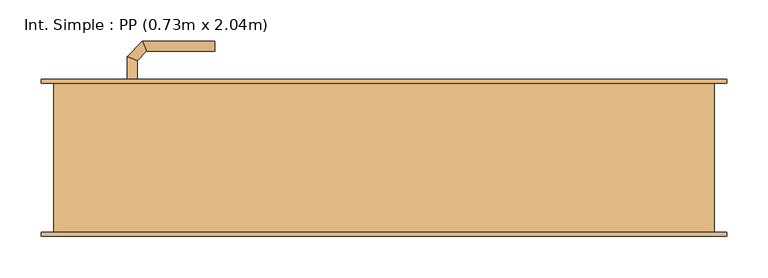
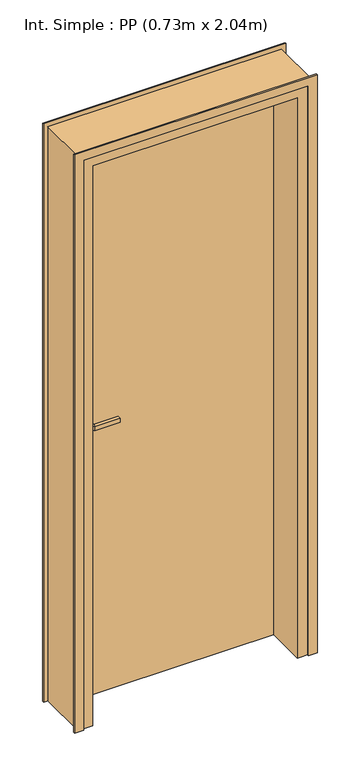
"""IFC4 building model written with IfcOpenShell, lengths in millimetres: door geometry, Int. Simple : PP (0.73m x 2.04m)."""

from ifc_helpers import new_model, si_unit, point, frame, frame_2d, origin, origin_with_axes, place, context, project, spatial, polyline, circle_curve, ellipse_curve, trimmed, segment, composite_curve, outline, extrude, faceted_brep, source, transform, mapped, element, save
from ifc_brep_helpers import plane_surface, cylinder_surface, advanced_brep


def int_simple_pp_0_73m_x_2_04m_646e19c0(model_context):
    return source(origin(), model_context, "Body", "SolidModel", [
        extrude(outline(composite_curve([segment(trimmed(circle_curve(frame_2d((904.6410162, -340.0)), 40.0), [point((870.0, -360.0))], [point((870.0, -320.0))], False, "CARTESIAN"), True, "CONTINUOUS"), segment(polyline([(870.0, -320.0), (1080.0, -320.0)]), True, "CONTINUOUS"), segment(trimmed(circle_curve(frame_2d((1045.3589838, -340.0)), 40.0), [point((1080.0, -320.0))], [point((1080.0, -360.0))], False, "CARTESIAN"), True, "CONTINUOUS"), segment(polyline([(1080.0, -360.0), (870.0, -360.0)]), True, "CONTINUOUS")], self_intersect=False)), frame((0.0, 90.0, 0.0), z_axis=(0.0, 1.0, 0.0), x_axis=(0.0, 0.0, 1.0)), (0.0, 0.0, 1.0), 5.0),
        extrude(outline(composite_curve([segment(trimmed(circle_curve(frame_2d((1045.3589838, -340.0)), 40.0), [point((1080.0, -320.0))], [point((1080.0, -360.0))], False, "CARTESIAN"), True, "CONTINUOUS"), segment(polyline([(1080.0, -360.0), (870.0, -360.0)]), True, "CONTINUOUS"), segment(trimmed(circle_curve(frame_2d((904.6410162, -340.0)), 40.0), [point((870.0, -360.0))], [point((870.0, -320.0))], False, "CARTESIAN"), True, "CONTINUOUS"), segment(polyline([(870.0, -320.0), (1080.0, -320.0)]), True, "CONTINUOUS")], self_intersect=False)), frame((0.0, 45.0, 0.0), z_axis=(0.0, 1.0, 0.0), x_axis=(0.0, 0.0, 1.0)), (0.0, 0.0, 1.0), 5.0),
        advanced_brep(
        [(-346.0, 95.0, 1007.0), (-346.0, 95.0, 993.0), (-334.0, 95.0, 993.0), (-334.0, 95.0, 1007.0), (-334.0, 117.680388, 1007.0), (-346.0, 122.6509507, 1007.0), (-334.0, 117.680388, 993.0), (-346.0, 122.6509507, 993.0), (-322.6522273, 129.0281607, 1007.0), (-327.62279, 141.0281607, 1007.0), (-322.6522273, 129.0281607, 993.0), (-327.62279, 141.0281607, 993.0), (-239.9813594, 141.0281607, 1007.0), (-239.9813594, 129.0281607, 1007.0), (-239.9813594, 129.0281607, 993.0), (-239.9813594, 141.0281607, 993.0)],
        [
            (0, 1),
            (1, 2, circle_curve(frame((-340.0, 95.0, 1013.0457722), z_axis=(0.0, -1.0, 0.0), x_axis=(1.0, 0.0, 0.0)), 20.9244589)),
            (2, 3),
            (3, 0, circle_curve(frame((-340.0, 95.0, 986.9542278), z_axis=(0.0, -1.0, 0.0), x_axis=(1.0, 0.0, 0.0)), 20.9244589)),
            (3, 4),
            (4, 5, ellipse_curve(frame((-340.0, 120.1656693, 986.9542278), z_axis=(-0.3826834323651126, -0.9238795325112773, 0.0), x_axis=(0.9238795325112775, -0.38268343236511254, 0.0)), 22.6484711, 20.9244589)),
            (5, 0),
            (2, 6),
            (6, 4),
            (1, 7),
            (7, 6, ellipse_curve(frame((-340.0, 120.1656693, 1013.0457722), z_axis=(-0.3826834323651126, -0.9238795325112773, 0.0), x_axis=(0.9238795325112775, -0.38268343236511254, 0.0)), 22.6484711, 20.9244589)),
            (5, 7),
            (4, 8),
            (8, 9, ellipse_curve(frame((-325.1375086, 135.0281607, 986.9542278), z_axis=(-0.9238795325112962, -0.38268343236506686, 0.0), x_axis=(0.3826834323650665, -0.9238795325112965, 0.0)), 22.6484711, 20.9244589)),
            (9, 5),
            (6, 10),
            (10, 8),
            (7, 11),
            (11, 10, ellipse_curve(frame((-325.1375086, 135.0281607, 1013.0457722), z_axis=(-0.9238795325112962, -0.38268343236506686, 0.0), x_axis=(0.3826834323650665, -0.9238795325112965, 0.0)), 22.6484711, 20.9244589)),
            (9, 11),
            (12, 13, circle_curve(frame((-239.9813594, 135.0281607, 986.9542278), z_axis=(1.0, 0.0, 0.0), x_axis=(0.0, -1.0, 0.0)), 20.9244589)),
            (13, 14),
            (14, 15, circle_curve(frame((-239.9813594, 135.0281607, 1013.0457722), z_axis=(1.0, 0.0, 0.0), x_axis=(0.0, -1.0, 0.0)), 20.9244589)),
            (15, 12),
            (8, 13),
            (12, 9),
            (10, 14),
            (11, 15),
        ],
        [
            plane_surface(frame((-349.2195445, 95.0, 1000.0), z_axis=(0.0, -1.0, 0.0), x_axis=(0.0, 0.0, -1.0))),
            cylinder_surface(frame((-340.0, 95.0, 986.9542278), z_axis=(0.0, -1.0, 0.0), x_axis=(1.0, 0.0, 0.0)), 20.9244589),
            plane_surface(frame((-334.0, 95.0, 1007.0), z_axis=(1.0, 0.0, 0.0), x_axis=(0.0, 1.0, 0.0))),
            cylinder_surface(frame((-340.0, 95.0, 1013.0457722), z_axis=(0.0, -1.0, 0.0), x_axis=(1.0, 0.0, 0.0)), 20.9244589),
            plane_surface(frame((-346.0, 95.0, 993.0), z_axis=(-1.0, 0.0, 0.0), x_axis=(0.0, 1.0, 0.0))),
            cylinder_surface(frame((-340.0, 120.1656693, 986.9542278), z_axis=(-0.7071067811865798, -0.7071067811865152, 0.0), x_axis=(0.7071067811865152, -0.7071067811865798, 0.0)), 20.9244589),
            plane_surface(frame((-334.0, 117.680388, 1007.0), z_axis=(0.7071067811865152, -0.7071067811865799, 0.0), x_axis=(0.7071067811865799, 0.7071067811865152, 0.0))),
            cylinder_surface(frame((-340.0, 120.1656693, 1013.0457722), z_axis=(-0.7071067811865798, -0.7071067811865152, 0.0), x_axis=(0.7071067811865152, -0.7071067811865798, 0.0)), 20.9244589),
            plane_surface(frame((-346.0, 122.6509507, 993.0), z_axis=(-0.7071067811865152, 0.7071067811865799, 0.0), x_axis=(0.7071067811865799, 0.7071067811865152, 0.0))),
            plane_surface(frame((-239.9813594, 135.0281607, 990.7804555), z_axis=(1.0, 0.0, 0.0), x_axis=(0.0, -1.0, 0.0))),
            cylinder_surface(frame((-325.1375086, 135.0281607, 986.9542278), z_axis=(-1.0, 0.0, 0.0), x_axis=(0.0, -1.0, 0.0)), 20.9244589),
            plane_surface(frame((-322.6522273, 129.0281607, 1007.0), z_axis=(0.0, -1.0, 0.0), x_axis=(1.0, 0.0, 0.0))),
            cylinder_surface(frame((-325.1375086, 135.0281607, 1013.0457722), z_axis=(-1.0, 0.0, 0.0), x_axis=(0.0, -1.0, 0.0)), 20.9244589),
            plane_surface(frame((-327.62279, 141.0281607, 993.0), z_axis=(0.0, 1.0, 0.0), x_axis=(1.0, 0.0, 0.0))),
        ],
        [
            (0, [[1, 2, 3, 4]]),
            (1, [[5, 6, 7, -4]]),
            (2, [[8, 9, -5, -3]]),
            (3, [[10, 11, -8, -2]]),
            (4, [[-7, 12, -10, -1]]),
            (5, [[13, 14, 15, -6]]),
            (6, [[16, 17, -13, -9]]),
            (7, [[18, 19, -16, -11]]),
            (8, [[-15, 20, -18, -12]]),
            (9, [[21, 22, 23, 24]]),
            (10, [[25, -21, 26, -14]]),
            (11, [[27, -22, -25, -17]]),
            (12, [[28, -23, -27, -19]]),
            (13, [[-26, -24, -28, -20]]),
        ],
    ),
        advanced_brep(
        [(-334.0, 45.0, 993.0), (-346.0, 45.0, 993.0), (-346.0, 45.0, 1007.0), (-334.0, 45.0, 1007.0), (-334.0, 22.5147955, 1007.0), (-334.0, 22.5147955, 993.0), (-346.0, 17.5442327, 1007.0), (-346.0, 17.5442327, 993.0), (-322.5147186, 11.0295141, 1007.0), (-322.5147186, 11.0295141, 993.0), (-327.4852814, -0.9704859, 1007.0), (-327.4852814, -0.9704859, 993.0), (-239.9542163, 11.0295141, 993.0), (-239.9542163, 11.0295141, 1007.0), (-239.9542163, -0.9704859, 1007.0), (-239.9542163, -0.9704859, 993.0)],
        [
            (0, 1, circle_curve(frame((-340.0, 45.0, 1013.0457722), z_axis=(0.0, 1.0, 0.0), x_axis=(-1.0, 0.0, 0.0)), 20.9244589)),
            (1, 2),
            (2, 3, circle_curve(frame((-340.0, 45.0, 986.9542278), z_axis=(0.0, 1.0, 0.0), x_axis=(-1.0, 0.0, 0.0)), 20.9244589)),
            (3, 0),
            (3, 4),
            (4, 5),
            (5, 0),
            (2, 6),
            (6, 4, ellipse_curve(frame((-340.0, 20.0295141, 986.9542278), z_axis=(-0.3826834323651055, 0.9238795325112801, 0.0), x_axis=(0.9238795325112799, 0.3826834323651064, 0.0)), 22.6484711, 20.9244589)),
            (1, 7),
            (7, 6),
            (5, 7, ellipse_curve(frame((-340.0, 20.0295141, 1013.0457722), z_axis=(-0.3826834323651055, 0.9238795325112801, 0.0), x_axis=(0.9238795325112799, 0.3826834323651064, 0.0)), 22.6484711, 20.9244589)),
            (4, 8),
            (8, 9),
            (9, 5),
            (6, 10),
            (10, 8, ellipse_curve(frame((-325.0, 5.0295141, 986.9542278), z_axis=(-0.9238795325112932, 0.382683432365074, 0.0), x_axis=(0.3826834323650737, 0.9238795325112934, 0.0)), 22.6484711, 20.9244589)),
            (7, 11),
            (11, 10),
            (9, 11, ellipse_curve(frame((-325.0, 5.0295141, 1013.0457722), z_axis=(-0.9238795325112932, 0.382683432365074, 0.0), x_axis=(0.3826834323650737, 0.9238795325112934, 0.0)), 22.6484711, 20.9244589)),
            (12, 13),
            (13, 14, circle_curve(frame((-239.9542163, 5.0295141, 986.9542278), z_axis=(1.0, 0.0, 0.0), x_axis=(0.0, -1.0, 0.0)), 20.9244589)),
            (14, 15),
            (15, 12, circle_curve(frame((-239.9542163, 5.0295141, 1013.0457722), z_axis=(1.0, 0.0, 0.0), x_axis=(0.0, -1.0, 0.0)), 20.9244589)),
            (8, 13),
            (12, 9),
            (10, 14),
            (11, 15),
        ],
        [
            plane_surface(frame((-349.2195445, 45.0, 1000.0), z_axis=(0.0, 1.0, 0.0), x_axis=(0.0, 0.0, 1.0))),
            plane_surface(frame((-334.0, 45.0, 993.0), z_axis=(1.0, 0.0, 0.0), x_axis=(0.0, -1.0, 0.0))),
            cylinder_surface(frame((-340.0, 45.0, 986.9542278), z_axis=(0.0, 1.0, 0.0), x_axis=(-1.0, 0.0, 0.0)), 20.9244589),
            plane_surface(frame((-346.0, 45.0, 1007.0), z_axis=(-1.0, 0.0, 0.0), x_axis=(0.0, -1.0, 0.0))),
            cylinder_surface(frame((-340.0, 45.0, 1013.0457722), z_axis=(0.0, 1.0, 0.0), x_axis=(-1.0, 0.0, 0.0)), 20.9244589),
            plane_surface(frame((-334.0, 22.5147955, 993.0), z_axis=(0.7071067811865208, 0.7071067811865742, 0.0), x_axis=(0.7071067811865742, -0.7071067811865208, 0.0))),
            cylinder_surface(frame((-340.0, 20.0295141, 986.9542278), z_axis=(-0.7071067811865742, 0.7071067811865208, 0.0), x_axis=(-0.7071067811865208, -0.7071067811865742, 0.0)), 20.9244589),
            plane_surface(frame((-346.0, 17.5442327, 1007.0), z_axis=(-0.7071067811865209, -0.7071067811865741, 0.0), x_axis=(0.7071067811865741, -0.7071067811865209, 0.0))),
            cylinder_surface(frame((-340.0, 20.0295141, 1013.0457722), z_axis=(-0.7071067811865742, 0.7071067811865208, 0.0), x_axis=(-0.7071067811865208, -0.7071067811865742, 0.0)), 20.9244589),
            plane_surface(frame((-239.9542163, 5.0295141, 990.7804555), z_axis=(1.0, 0.0, 0.0), x_axis=(0.0, -1.0, 0.0))),
            plane_surface(frame((-322.5147186, 11.0295141, 993.0), z_axis=(0.0, 1.0, 0.0), x_axis=(1.0, 0.0, 0.0))),
            cylinder_surface(frame((-325.0, 5.0295141, 986.9542278), z_axis=(-1.0, 0.0, 0.0), x_axis=(0.0, -1.0, 0.0)), 20.9244589),
            plane_surface(frame((-327.4852814, -0.9704859, 1007.0), z_axis=(0.0, -1.0, 0.0), x_axis=(1.0, 0.0, 0.0))),
            cylinder_surface(frame((-325.0, 5.0295141, 1013.0457722), z_axis=(-1.0, 0.0, 0.0), x_axis=(0.0, -1.0, 0.0)), 20.9244589),
        ],
        [
            (0, [[1, 2, 3, 4]]),
            (1, [[5, 6, 7, -4]]),
            (2, [[8, 9, -5, -3]]),
            (3, [[10, 11, -8, -2]]),
            (4, [[-7, 12, -10, -1]]),
            (5, [[13, 14, 15, -6]]),
            (6, [[16, 17, -13, -9]]),
            (7, [[18, 19, -16, -11]]),
            (8, [[-15, 20, -18, -12]]),
            (9, [[21, 22, 23, 24]]),
            (10, [[25, -21, 26, -14]]),
            (11, [[27, -22, -25, -17]]),
            (12, [[28, -23, -27, -19]]),
            (13, [[-26, -24, -28, -20]]),
        ],
    ),
        extrude(outline(polyline([(-400.0, 50.0), (-400.0, 90.0), (330.0, 90.0), (330.0, 50.0), (-400.0, 50.0)])), origin_with_axes(), (0.0, 0.0, 1.0), 2040.0),
        faceted_brep([(-435.0, 90.0, 0.0), (-400.0, 90.0, 0.0), (-400.0, 50.0, 0.0), (-385.0, 50.0, 0.0), (-385.0, -90.0, 0.0), (-435.0, -90.0, 0.0), (-435.0, -90.0, 2075.0), (-435.0, 90.0, 2075.0), (-385.0, -90.0, 2025.0), (315.0, -90.0, 2025.0), (315.0, -90.0, 0.0), (365.0, -90.0, 0.0), (365.0, -90.0, 2075.0), (-385.0, 50.0, 2025.0), (-400.0, 50.0, 2040.0), (330.0, 50.0, 2040.0), (330.0, 50.0, 0.0), (315.0, 50.0, 0.0), (315.0, 50.0, 2025.0), (-400.0, 90.0, 2040.0), (365.0, 90.0, 2075.0), (365.0, 90.0, 0.0), (330.0, 90.0, 0.0), (330.0, 90.0, 2040.0)], [[[0, 1, 2, 3, 4, 5]], [[5, 6, 7, 0]], [[4, 8, 9, 10, 11, 12, 6, 5]], [[3, 13, 8, 4]], [[2, 14, 15, 16, 17, 18, 13, 3]], [[1, 19, 14, 2]], [[0, 7, 20, 21, 22, 23, 19, 1]], [[12, 11, 21, 20]], [[21, 11, 10, 17, 16, 22]], [[18, 17, 10, 9]], [[23, 22, 16, 15]], [[6, 12, 20, 7]], [[13, 18, 9, 8]], [[19, 23, 15, 14]]]),
        extrude(outline(polyline([(0.0, -420.0), (2060.0, -420.0), (2060.0, 350.0), (0.0, 350.0), (0.0, 380.0), (2090.0, 380.0), (2090.0, -450.0), (0.0, -450.0), (0.0, -420.0)])), frame((0.0, 90.0, 0.0), z_axis=(0.0, 1.0, 0.0), x_axis=(0.0, 0.0, 1.0)), (0.0, 0.0, 1.0), 5.0),
        extrude(outline(polyline([(0.0, -420.0), (2060.0, -420.0), (2060.0, 350.0), (0.0, 350.0), (0.0, 380.0), (2090.0, 380.0), (2090.0, -450.0), (0.0, -450.0), (0.0, -420.0)])), frame((0.0, -95.0, 0.0), z_axis=(0.0, 1.0, 0.0), x_axis=(0.0, 0.0, 1.0)), (0.0, 0.0, 1.0), 5.0),
    ])


if __name__ == "__main__":
    model = new_model("IFC4")
    model_context = context("Model", 3, world=origin())
    ifc_project = project(units=[si_unit("LENGTHUNIT", "METRE", prefix="MILLI")], contexts=[model_context])
    site = spatial("IfcSite", under=ifc_project)
    building = spatial("IfcBuilding", under=site)
    placement = place(None, origin())
    int_simple_pp_0_73m_x_2_04m_shape = int_simple_pp_0_73m_x_2_04m_646e19c0(model_context)
    element("IfcDoor", 1, ObjectType="Int. Simple : PP (0.73m x 2.04m)", at=placement, inside=building, context=model_context, shape_type="MappedRepresentation", body=[
        mapped(int_simple_pp_0_73m_x_2_04m_shape, transform((0.0, 0.0, 0.0), x_axis=(1.0, 0.0, 0.0), y_axis=(0.0, 1.0, 0.0), z_axis=(0.0, 0.0, 1.0))),
    ])
    save(model, "model.ifc")
